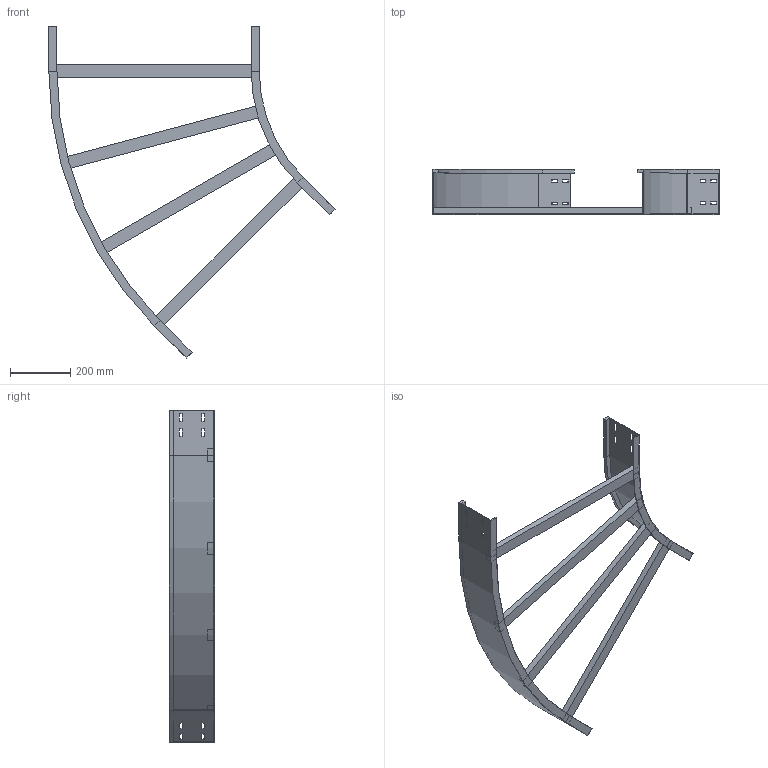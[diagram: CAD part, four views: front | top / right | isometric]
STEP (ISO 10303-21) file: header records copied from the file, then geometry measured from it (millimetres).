
FILE_DESCRIPTION (( 'STEP AP214' ), '1' );
FILE_NAME ('11J5F700.step', '2025-02-21T16:24:22', ( '' ), ( '' ), 'SwSTEP 2.0', 'SolidWorks 2023', '' );
FILE_SCHEMA (( 'AUTOMOTIVE_DESIGN' ));
Length unit declared in the file: millimetre
Products named in the file (4): LONGH.ESTERNO 45°_H150_R500+700; 11J5F700; LONGH.INTERNO 45°_H150_R500; TRAVERSINO_700
Assembly tree (6 placements, depth 2):
  11J5F700
    LONGH.INTERNO 45°_H150_R500
    LONGH.ESTERNO 45°_H150_R500+700
    TRAVERSINO_700  x4
Bounding box: 952.51 x 150 x 1104.59 mm (x, y, z)
Volume: 3296705.9 mm3; surface area: 1087466.3 mm2
Topology: 6 solids, 6 shells, 140 faces, 352 edges, 224 vertices
Faces by surface type: plane 132, cylinder 8
Entity records: 3829 total; most frequent: CARTESIAN_POINT 647, ORIENTED_EDGE 632, DIRECTION 594, EDGE_CURVE 316, LINE 300, VECTOR 300, VERTEX_POINT 200, EDGE_LOOP 154
